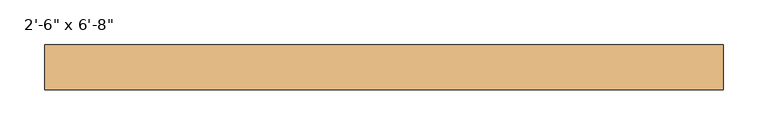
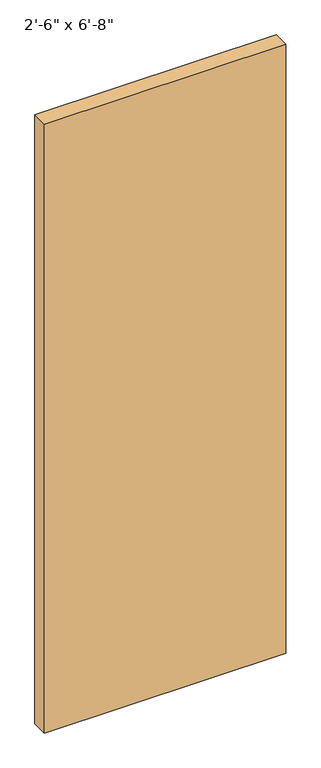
"""IFC4 building model written with IfcOpenShell, lengths in millimetres: door geometry."""

from ifc_helpers import new_model, si_unit, origin, origin_with_axes, place, context, project, spatial, polyline, outline, extrude, source, transform, mapped, element, save


def door_8162d734(model_context):
    return source(origin(), model_context, "Body", "SweptSolid", [
        extrude(outline(polyline([(381.0, -44.25), (381.0, -95.25), (-381.0, -95.25), (-381.0, -44.25), (381.0, -44.25)])), origin_with_axes(), (0.0, 0.0, 1.0), 2032.0),
    ])


if __name__ == "__main__":
    model = new_model("IFC4")
    model_context = context("Model", 3, world=origin())
    ifc_project = project(units=[si_unit("LENGTHUNIT", "METRE", prefix="MILLI")], contexts=[model_context])
    site = spatial("IfcSite", under=ifc_project)
    building = spatial("IfcBuilding", under=site)
    placement = place(None, origin())
    door_shape = door_8162d734(model_context)
    element("IfcDoor", 1, ObjectType="Planitar - Single Door_Flush Panel : 2'-6\" x 6'-8\"", at=placement, inside=building, context=model_context, shape_type="MappedRepresentation", body=[
        mapped(door_shape, transform((0.0, 0.0, 0.0), x_axis=(1.0, 0.0, 0.0), y_axis=(0.0, 1.0, 0.0), z_axis=(0.0, 0.0, 1.0))),
    ])
    save(model, "model.ifc")
